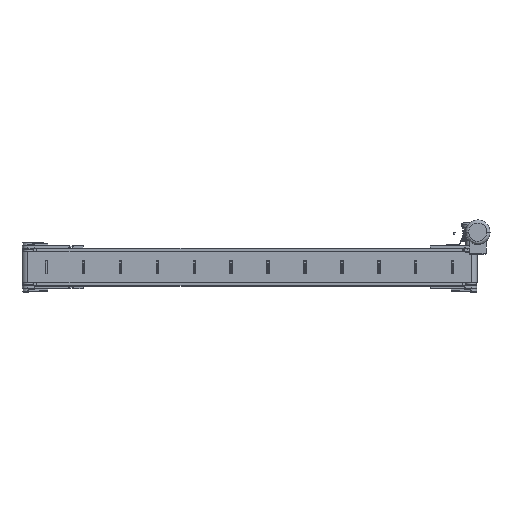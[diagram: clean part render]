
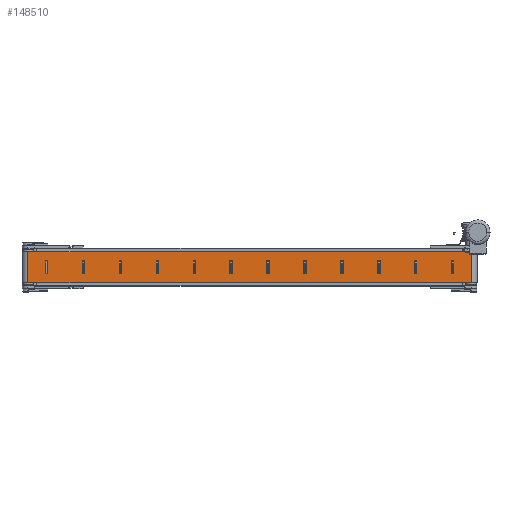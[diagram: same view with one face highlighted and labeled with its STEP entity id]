
A CAD part, front view. The second image highlights one B-rep face of the part: STEP entity #148510.
In plain terms, the highlighted planar face has unit normal (0, -1, 0).
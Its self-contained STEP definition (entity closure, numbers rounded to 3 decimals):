
#427 = EDGE_CURVE ( 'NONE', #12689, #21469, #66044, .T. ) ;
#530 = VECTOR ( 'NONE', #64877, 1000. ) ;
#7129 = LINE ( 'NONE', #136609, #530 ) ;
#11974 = EDGE_CURVE ( 'NONE', #17058, #21469, #30846, .T. ) ;
#12689 = VERTEX_POINT ( 'NONE', #23195 ) ;
#17058 = VERTEX_POINT ( 'NONE', #82165 ) ;
#18691 = DIRECTION ( 'NONE',  ( 0., 1., 0. ) ) ;
#20669 = CARTESIAN_POINT ( 'NONE',  ( 1000., -27., 70. ) ) ;
#21469 = VERTEX_POINT ( 'NONE', #44394 ) ;
#21867 = ORIENTED_EDGE ( 'NONE', *, *, #427, .T. ) ;
#23195 = CARTESIAN_POINT ( 'NONE',  ( -1000., -27., -70. ) ) ;
#30846 = LINE ( 'NONE', #20669, #131929 ) ;
#31158 = CARTESIAN_POINT ( 'NONE',  ( -1000., -27., 70. ) ) ;
#39632 = VERTEX_POINT ( 'NONE', #82382 ) ;
#41856 = CARTESIAN_POINT ( 'NONE',  ( -1000., -27., -70. ) ) ;
#43604 = DIRECTION ( 'NONE',  ( 0., 0., 1. ) ) ;
#44394 = CARTESIAN_POINT ( 'NONE',  ( 1000., -27., -70. ) ) ;
#48055 = EDGE_LOOP ( 'NONE', ( #21867, #77136, #116974, #140809 ) ) ;
#54690 = AXIS2_PLACEMENT_3D ( 'NONE', #31158, #18691, #43604 ) ;
#64877 = DIRECTION ( 'NONE',  ( 1., 0., 0. ) ) ;
#66044 = LINE ( 'NONE', #41856, #97583 ) ;
#67863 = CARTESIAN_POINT ( 'NONE',  ( -1000., -27., 70. ) ) ;
#77136 = ORIENTED_EDGE ( 'NONE', *, *, #11974, .F. ) ;
#82165 = CARTESIAN_POINT ( 'NONE',  ( 1000., -27., 70. ) ) ;
#82382 = CARTESIAN_POINT ( 'NONE',  ( -1000., -27., 70. ) ) ;
#84689 = VECTOR ( 'NONE', #89731, 1000. ) ;
#88954 = LINE ( 'NONE', #67863, #84689 ) ;
#89731 = DIRECTION ( 'NONE',  ( 0., 0., -1. ) ) ;
#91943 = PLANE ( 'NONE',  #54690 ) ;
#97583 = VECTOR ( 'NONE', #114402, 1000. ) ;
#101370 = FACE_OUTER_BOUND ( 'NONE', #48055, .T. ) ;
#112967 = EDGE_CURVE ( 'NONE', #39632, #17058, #7129, .T. ) ;
#114402 = DIRECTION ( 'NONE',  ( 1., 0., 0. ) ) ;
#116742 = EDGE_CURVE ( 'NONE', #39632, #12689, #88954, .T. ) ;
#116974 = ORIENTED_EDGE ( 'NONE', *, *, #112967, .F. ) ;
#131929 = VECTOR ( 'NONE', #151684, 1000. ) ;
#136609 = CARTESIAN_POINT ( 'NONE',  ( -1000., -27., 70. ) ) ;
#140809 = ORIENTED_EDGE ( 'NONE', *, *, #116742, .T. ) ;
#148510 = ADVANCED_FACE ( 'NONE', ( #101370 ), #91943, .F. ) ;
#151684 = DIRECTION ( 'NONE',  ( 0., 0., -1. ) ) ;
